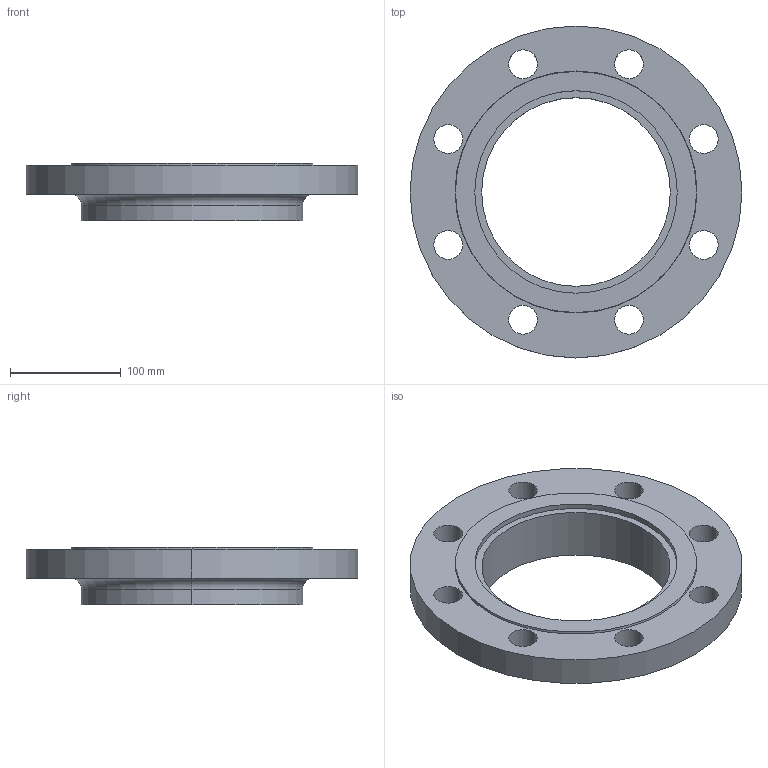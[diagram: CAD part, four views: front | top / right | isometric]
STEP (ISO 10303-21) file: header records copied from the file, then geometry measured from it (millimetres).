
FILE_DESCRIPTION (( 'STEP AP214' ), '1' );
FILE_NAME ('PN40 DN150 Type 12 - Type G Face.STEP', '2019-01-04T21:58:58', ( '' ), ( '' ), 'SwSTEP 2.0', 'SolidWorks 2019', '' );
FILE_SCHEMA (( 'AUTOMOTIVE_DESIGN' ));
Length unit declared in the file: millimetre
Products named in the file (1): PN40 DN150 Type 12 - Type G Face
Bounding box: 300 x 300 x 52 mm (x, y, z)
Volume: 1365456.1 mm3; surface area: 170335.8 mm2
Topology: 1 solids, 1 shells, 33 faces, 82 edges, 54 vertices
Faces by surface type: cylinder 24, plane 5, torus 2, cone 2
Entity records: 1086 total; most frequent: DIRECTION 206, CARTESIAN_POINT 170, ORIENTED_EDGE 164, AXIS2_PLACEMENT_3D 90, EDGE_CURVE 82, CIRCLE 56, EDGE_LOOP 54, VERTEX_POINT 54
